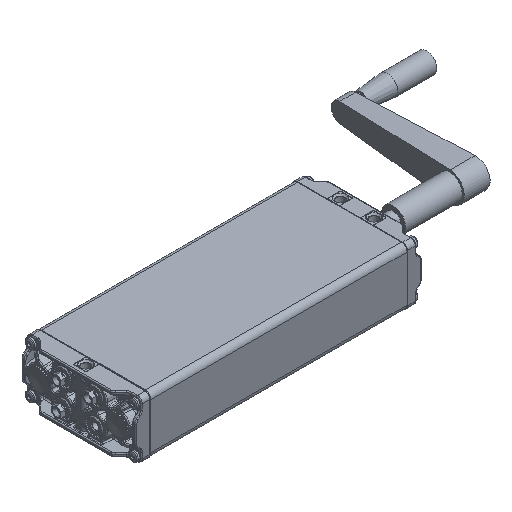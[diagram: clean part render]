
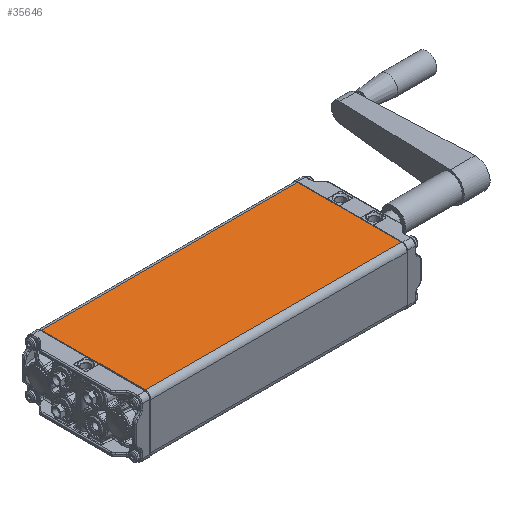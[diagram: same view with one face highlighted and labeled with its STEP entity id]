
A CAD part, isometric view. The second image highlights one B-rep face of the part: STEP entity #35646.
In plain terms, the highlighted planar face has unit normal (0, 0, 1).
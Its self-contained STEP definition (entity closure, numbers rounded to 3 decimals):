
#3702=LINE('',#76398,#5079);
#3703=LINE('',#76401,#5080);
#3704=LINE('',#76403,#5081);
#3705=LINE('',#76405,#5082);
#5079=VECTOR('',#43540,1000.);
#5080=VECTOR('',#43541,1000.);
#5081=VECTOR('',#43542,1000.);
#5082=VECTOR('',#43543,1000.);
#10743=ORIENTED_EDGE('',*,*,#16991,.T.);
#10744=ORIENTED_EDGE('',*,*,#16992,.T.);
#10745=ORIENTED_EDGE('',*,*,#16993,.T.);
#10746=ORIENTED_EDGE('',*,*,#16994,.T.);
#16991=EDGE_CURVE('',#20380,#20381,#3702,.F.);
#16992=EDGE_CURVE('',#20381,#20382,#3703,.T.);
#16993=EDGE_CURVE('',#20382,#20383,#3704,.T.);
#16994=EDGE_CURVE('',#20383,#20380,#3705,.F.);
#20380=VERTEX_POINT('',#76399);
#20381=VERTEX_POINT('',#76400);
#20382=VERTEX_POINT('',#76402);
#20383=VERTEX_POINT('',#76404);
#24092=EDGE_LOOP('',(#10743,#10744,#10745,#10746));
#26234=FACE_BOUND('',#24092,.T.);
#27441=PLANE('',#38123);
#35646=ADVANCED_FACE('',(#26234),#27441,.T.);
#38123=AXIS2_PLACEMENT_3D('',#76397,#43538,#43539);
#43538=DIRECTION('',(0.,0.,1.));
#43539=DIRECTION('',(1.,0.,0.));
#43540=DIRECTION('',(0.,-1.,0.));
#43541=DIRECTION('',(-1.,0.,0.));
#43542=DIRECTION('',(0.,-1.,0.));
#43543=DIRECTION('',(-1.,0.,0.));
#76397=CARTESIAN_POINT('',(60.,268.5,30.));
#76398=CARTESIAN_POINT('',(54.,268.5,30.));
#76399=CARTESIAN_POINT('',(54.,0.5,30.));
#76400=CARTESIAN_POINT('',(54.,268.,30.));
#76401=CARTESIAN_POINT('',(60.,268.,30.));
#76402=CARTESIAN_POINT('',(-54.,268.,30.));
#76403=CARTESIAN_POINT('',(-54.,268.5,30.));
#76404=CARTESIAN_POINT('',(-54.,0.5,30.));
#76405=CARTESIAN_POINT('',(54.,0.5,30.));
